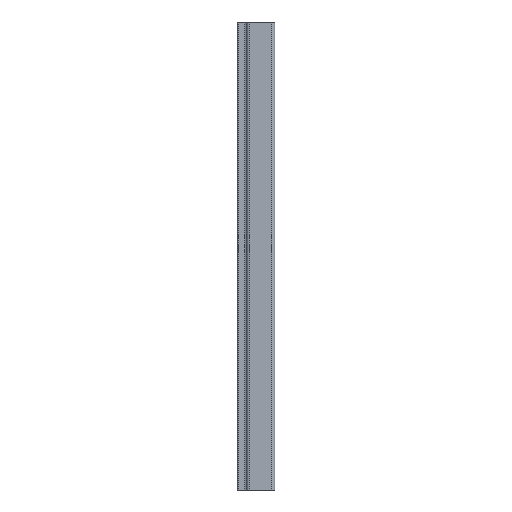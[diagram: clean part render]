
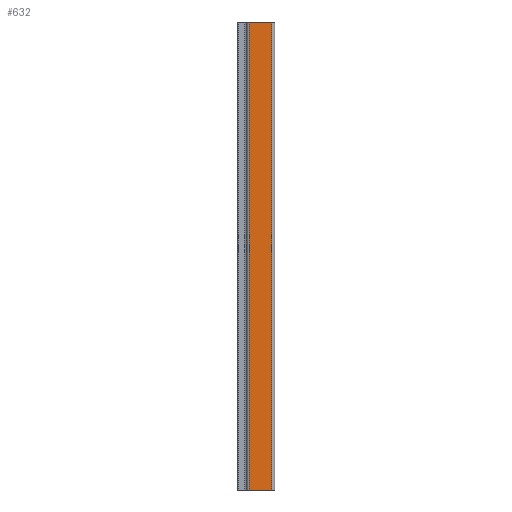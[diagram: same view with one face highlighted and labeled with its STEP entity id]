
A CAD part, left-side view. The second image highlights one B-rep face of the part: STEP entity #632.
In plain terms, the highlighted planar face has unit normal (-1, 0, 0).
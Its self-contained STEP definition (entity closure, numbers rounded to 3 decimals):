
#24 = VERTEX_POINT ( 'NONE', #243 ) ;
#43 = LINE ( 'NONE', #682, #569 ) ;
#59 = LINE ( 'NONE', #561, #643 ) ;
#63 = CARTESIAN_POINT ( 'NONE',  ( -15., -15., -250. ) ) ;
#93 = VERTEX_POINT ( 'NONE', #883 ) ;
#105 = ORIENTED_EDGE ( 'NONE', *, *, #467, .T. ) ;
#132 = EDGE_CURVE ( 'NONE', #93, #24, #593, .T. ) ;
#162 = ORIENTED_EDGE ( 'NONE', *, *, #132, .F. ) ;
#232 = CARTESIAN_POINT ( 'NONE',  ( -15., 12., -250. ) ) ;
#243 = CARTESIAN_POINT ( 'NONE',  ( -15., -12., 250. ) ) ;
#257 = LINE ( 'NONE', #621, #938 ) ;
#291 = EDGE_CURVE ( 'NONE', #93, #378, #257, .T. ) ;
#312 = ORIENTED_EDGE ( 'NONE', *, *, #345, .T. ) ;
#345 = EDGE_CURVE ( 'NONE', #378, #601, #59, .T. ) ;
#350 = PLANE ( 'NONE',  #894 ) ;
#378 = VERTEX_POINT ( 'NONE', #232 ) ;
#414 = DIRECTION ( 'NONE',  ( 0., 0., 1. ) ) ;
#467 = EDGE_CURVE ( 'NONE', #601, #24, #43, .T. ) ;
#545 = DIRECTION ( 'NONE',  ( 0., 0., -1. ) ) ;
#550 = CARTESIAN_POINT ( 'NONE',  ( -15., -12., -250. ) ) ;
#561 = CARTESIAN_POINT ( 'NONE',  ( -15., -15., -250. ) ) ;
#569 = VECTOR ( 'NONE', #906, 1000. ) ;
#593 = LINE ( 'NONE', #804, #800 ) ;
#601 = VERTEX_POINT ( 'NONE', #550 ) ;
#621 = CARTESIAN_POINT ( 'NONE',  ( -15., 12., -250. ) ) ;
#623 = FACE_OUTER_BOUND ( 'NONE', #919, .T. ) ;
#632 = ADVANCED_FACE ( 'NONE', ( #623 ), #350, .T. ) ;
#643 = VECTOR ( 'NONE', #784, 1000. ) ;
#682 = CARTESIAN_POINT ( 'NONE',  ( -15., -12., -250. ) ) ;
#715 = DIRECTION ( 'NONE',  ( -1., 0., 0. ) ) ;
#735 = DIRECTION ( 'NONE',  ( 0., -1., 0. ) ) ;
#784 = DIRECTION ( 'NONE',  ( 0., -1., 0. ) ) ;
#800 = VECTOR ( 'NONE', #735, 1000. ) ;
#804 = CARTESIAN_POINT ( 'NONE',  ( -15., -15., 250. ) ) ;
#841 = ORIENTED_EDGE ( 'NONE', *, *, #291, .T. ) ;
#883 = CARTESIAN_POINT ( 'NONE',  ( -15., 12., 250. ) ) ;
#894 = AXIS2_PLACEMENT_3D ( 'NONE', #63, #715, #414 ) ;
#906 = DIRECTION ( 'NONE',  ( 0., 0., 1. ) ) ;
#919 = EDGE_LOOP ( 'NONE', ( #312, #105, #162, #841 ) ) ;
#938 = VECTOR ( 'NONE', #545, 1000. ) ;
